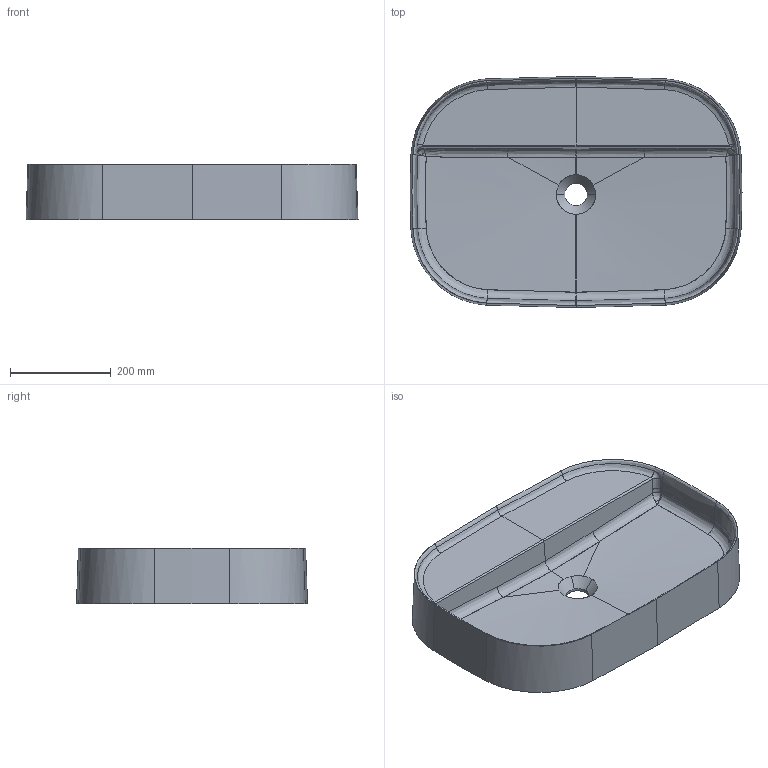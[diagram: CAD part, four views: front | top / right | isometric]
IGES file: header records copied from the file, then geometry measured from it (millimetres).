
Start section: START RECORD GO HERE.
Global section: file name: ART 7400 65x45 tondo.igs; native system: DASSAULT SYSTEMES CATIA V5 R19 - www.3ds.com; preprocessor: CATIA Version 5 Release 19 SP 5 ; author: Luca; organization: DESKTOP-V7SON24; date: 20181015.134755; units: millimetre
Bounding box: 657.68 x 457.68 x 110 mm (x, y, z)
Surface area: 955394.5 mm2 (no closed solid volume)
Topology: 0 solids, 0 shells, 171 faces, 769 edges, 767 vertices
Faces by surface type: bspline 140, revolution 22, plane 9
